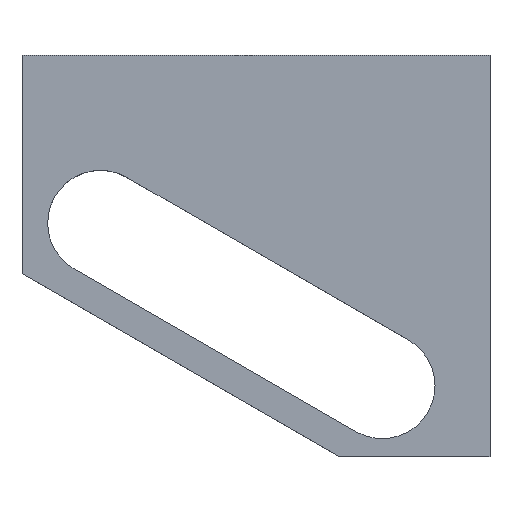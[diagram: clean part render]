
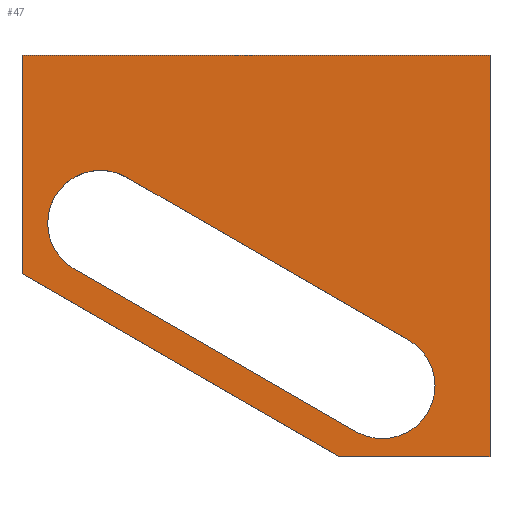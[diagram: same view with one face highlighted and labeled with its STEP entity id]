
A CAD part, top view. The second image highlights one B-rep face of the part: STEP entity #47.
In plain terms, the highlighted planar face has unit normal (0, 0, 1).
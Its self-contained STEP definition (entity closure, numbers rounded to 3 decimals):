
#3 = FACE_BOUND ( 'NONE', #695, .T. ) ;
#18 = ORIENTED_EDGE ( 'NONE', *, *, #523, .T. ) ;
#24 = VERTEX_POINT ( 'NONE', #681 ) ;
#31 = EDGE_CURVE ( 'NONE', #241, #611, #122, .T. ) ;
#34 = VECTOR ( 'NONE', #49, 1000. ) ;
#43 = ORIENTED_EDGE ( 'NONE', *, *, #533, .F. ) ;
#47 = ADVANCED_FACE ( 'NONE', ( #125, #3 ), #201, .T. ) ;
#49 = DIRECTION ( 'NONE',  ( -0.866, 0.5, 0. ) ) ;
#81 = DIRECTION ( 'NONE',  ( -1., 0., 0. ) ) ;
#90 = CARTESIAN_POINT ( 'NONE',  ( -75., -66.5, 16. ) ) ;
#92 = ORIENTED_EDGE ( 'NONE', *, *, #350, .F. ) ;
#99 = CARTESIAN_POINT ( 'NONE',  ( 30.547, -58.155, 16. ) ) ;
#110 = VERTEX_POINT ( 'NONE', #138 ) ;
#114 = DIRECTION ( 'NONE',  ( 0., 0., 1. ) ) ;
#122 = LINE ( 'NONE', #436, #139 ) ;
#125 = FACE_OUTER_BOUND ( 'NONE', #396, .T. ) ;
#136 = CARTESIAN_POINT ( 'NONE',  ( -80., -5.878, 16. ) ) ;
#137 = EDGE_CURVE ( 'NONE', #24, #241, #392, .T. ) ;
#138 = CARTESIAN_POINT ( 'NONE',  ( -45.25, 26.02, 16. ) ) ;
#139 = VECTOR ( 'NONE', #254, 1000. ) ;
#150 = EDGE_CURVE ( 'NONE', #611, #704, #158, .T. ) ;
#156 = CIRCLE ( 'NONE', #739, 17.5 ) ;
#158 = LINE ( 'NONE', #400, #438 ) ;
#161 = CARTESIAN_POINT ( 'NONE',  ( 75., -66.5, 16. ) ) ;
#169 = CARTESIAN_POINT ( 'NONE',  ( -45.25, 26.02, 16. ) ) ;
#175 = ORIENTED_EDGE ( 'NONE', *, *, #31, .T. ) ;
#177 = DIRECTION ( 'NONE',  ( 0., 0., 1. ) ) ;
#201 = PLANE ( 'NONE',  #258 ) ;
#228 = ORIENTED_EDGE ( 'NONE', *, *, #786, .F. ) ;
#235 = VECTOR ( 'NONE', #337, 1000. ) ;
#241 = VERTEX_POINT ( 'NONE', #161 ) ;
#248 = LINE ( 'NONE', #772, #235 ) ;
#254 = DIRECTION ( 'NONE',  ( 0., 1., 0. ) ) ;
#258 = AXIS2_PLACEMENT_3D ( 'NONE', #631, #498, #432 ) ;
#265 = VERTEX_POINT ( 'NONE', #802 ) ;
#280 = CARTESIAN_POINT ( 'NONE',  ( 75., 66.5, 16. ) ) ;
#294 = CARTESIAN_POINT ( 'NONE',  ( -80., 66.5, 16. ) ) ;
#299 = CARTESIAN_POINT ( 'NONE',  ( 39.297, -43., 16. ) ) ;
#306 = DIRECTION ( 'NONE',  ( 0., -1., 0. ) ) ;
#326 = CARTESIAN_POINT ( 'NONE',  ( 48.047, -27.845, 16. ) ) ;
#337 = DIRECTION ( 'NONE',  ( 0.866, -0.5, 0. ) ) ;
#340 = ORIENTED_EDGE ( 'NONE', *, *, #137, .T. ) ;
#343 = EDGE_CURVE ( 'NONE', #403, #614, #636, .T. ) ;
#350 = EDGE_CURVE ( 'NONE', #614, #110, #723, .T. ) ;
#363 = DIRECTION ( 'NONE',  ( 1., 0., 0. ) ) ;
#392 = LINE ( 'NONE', #90, #463 ) ;
#396 = EDGE_LOOP ( 'NONE', ( #635, #340, #175, #549, #18 ) ) ;
#400 = CARTESIAN_POINT ( 'NONE',  ( -75., 66.5, 16. ) ) ;
#403 = VERTEX_POINT ( 'NONE', #683 ) ;
#430 = ORIENTED_EDGE ( 'NONE', *, *, #343, .F. ) ;
#432 = DIRECTION ( 'NONE',  ( 1., 0., 0. ) ) ;
#436 = CARTESIAN_POINT ( 'NONE',  ( 75., 66.5, 16. ) ) ;
#438 = VECTOR ( 'NONE', #81, 1000. ) ;
#451 = DIRECTION ( 'NONE',  ( 1., 0., 0. ) ) ;
#463 = VECTOR ( 'NONE', #451, 1000. ) ;
#477 = AXIS2_PLACEMENT_3D ( 'NONE', #736, #114, #613 ) ;
#498 = DIRECTION ( 'NONE',  ( 0., 0., 1. ) ) ;
#506 = ORIENTED_EDGE ( 'NONE', *, *, #694, .F. ) ;
#523 = EDGE_CURVE ( 'NONE', #704, #265, #759, .T. ) ;
#533 = EDGE_CURVE ( 'NONE', #555, #796, #248, .T. ) ;
#541 = CARTESIAN_POINT ( 'NONE',  ( -54., 10.865, 16. ) ) ;
#542 = DIRECTION ( 'NONE',  ( -0.866, 0.5, 0. ) ) ;
#549 = ORIENTED_EDGE ( 'NONE', *, *, #150, .T. ) ;
#555 = VERTEX_POINT ( 'NONE', #702 ) ;
#596 = CIRCLE ( 'NONE', #782, 17.5 ) ;
#611 = VERTEX_POINT ( 'NONE', #280 ) ;
#612 = CARTESIAN_POINT ( 'NONE',  ( -75., -8.765, 16. ) ) ;
#613 = DIRECTION ( 'NONE',  ( 1., 0., 0. ) ) ;
#614 = VERTEX_POINT ( 'NONE', #326 ) ;
#631 = CARTESIAN_POINT ( 'NONE',  ( 0., 0., 16. ) ) ;
#635 = ORIENTED_EDGE ( 'NONE', *, *, #800, .F. ) ;
#636 = CIRCLE ( 'NONE', #477, 17.5 ) ;
#650 = VECTOR ( 'NONE', #306, 1000. ) ;
#657 = DIRECTION ( 'NONE',  ( 0., 0., 1. ) ) ;
#673 = LINE ( 'NONE', #612, #34 ) ;
#681 = CARTESIAN_POINT ( 'NONE',  ( 25., -66.5, 16. ) ) ;
#683 = CARTESIAN_POINT ( 'NONE',  ( 56.797, -43., 16. ) ) ;
#694 = EDGE_CURVE ( 'NONE', #110, #555, #596, .T. ) ;
#695 = EDGE_LOOP ( 'NONE', ( #506, #92, #430, #228, #43 ) ) ;
#702 = CARTESIAN_POINT ( 'NONE',  ( -62.75, -4.291, 16. ) ) ;
#704 = VERTEX_POINT ( 'NONE', #294 ) ;
#723 = LINE ( 'NONE', #169, #738 ) ;
#736 = CARTESIAN_POINT ( 'NONE',  ( 39.297, -43., 16. ) ) ;
#738 = VECTOR ( 'NONE', #542, 1000. ) ;
#739 = AXIS2_PLACEMENT_3D ( 'NONE', #299, #177, #789 ) ;
#759 = LINE ( 'NONE', #136, #650 ) ;
#772 = CARTESIAN_POINT ( 'NONE',  ( -62.75, -4.291, 16. ) ) ;
#782 = AXIS2_PLACEMENT_3D ( 'NONE', #541, #657, #363 ) ;
#786 = EDGE_CURVE ( 'NONE', #796, #403, #156, .T. ) ;
#789 = DIRECTION ( 'NONE',  ( 1., 0., 0. ) ) ;
#796 = VERTEX_POINT ( 'NONE', #99 ) ;
#800 = EDGE_CURVE ( 'NONE', #24, #265, #673, .T. ) ;
#802 = CARTESIAN_POINT ( 'NONE',  ( -80., -5.878, 16. ) ) ;
